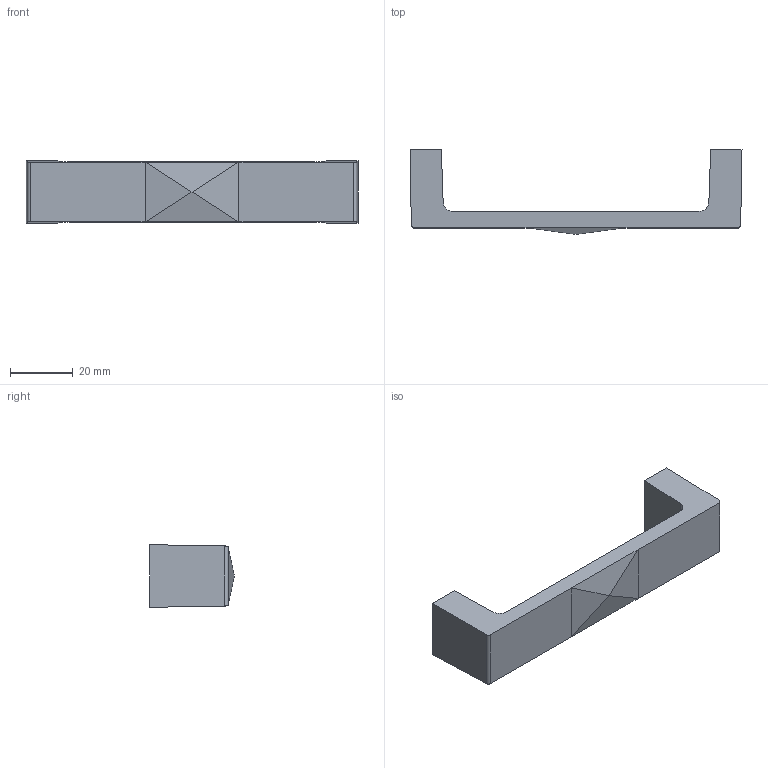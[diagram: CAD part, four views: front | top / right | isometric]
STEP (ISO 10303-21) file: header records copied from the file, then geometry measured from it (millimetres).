
FILE_DESCRIPTION( ( '' ), '1' );
FILE_NAME( 'D:/1.AUTOCAD EXPORT/Group 10/sheet_10_1/115275.stp', '2013-10-17T04:20:51', ( '' ), ( '' ), ' ', ' ', ' ' );
FILE_SCHEMA( ( 'automotive_design' ) );
Length unit declared in the file: millimetre
Products named in the file (1): 1
Bounding box: 106 x 27 x 20 mm (x, y, z)
Volume: 18847.1 mm3; surface area: 7868 mm2
Topology: 1 solids, 1 shells, 25 faces, 58 edges, 37 vertices
Faces by surface type: plane 17, cylinder 8
Entity records: 1407 total; most frequent: DIRECTION 126, STYLED_ITEM 121, PRESENTATION_STYLE_ASSIGNMENT 121, CARTESIAN_POINT 121, COLOUR_RGB 121, ORIENTED_EDGE 116, EDGE_CURVE 58, CURVE_STYLE 58
